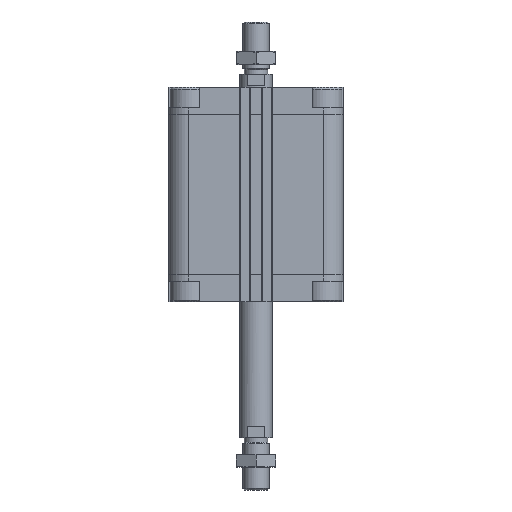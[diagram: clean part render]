
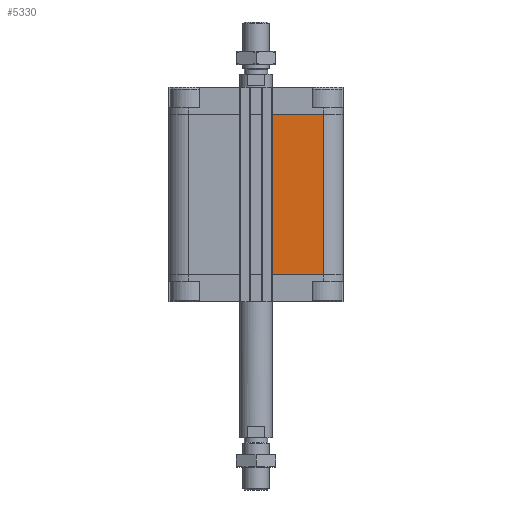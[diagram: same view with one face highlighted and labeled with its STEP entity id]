
A CAD part, front view. The second image highlights one B-rep face of the part: STEP entity #5330.
In plain terms, the highlighted planar face has unit normal (0, -1, 0).
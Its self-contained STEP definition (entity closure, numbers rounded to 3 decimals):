
#190 = ORIENTED_EDGE ( 'NONE', *, *, #8446, .T. ) ;
#3370 = VERTEX_POINT ( 'NONE', #13296 ) ;
#3803 = DIRECTION ( 'NONE',  ( 0., -1., 0. ) ) ;
#3814 = CARTESIAN_POINT ( 'NONE',  ( 9.95, -53.5, -114.5 ) ) ;
#3965 = VERTEX_POINT ( 'NONE', #19003 ) ;
#3974 = DIRECTION ( 'NONE',  ( 0., 0., 1. ) ) ;
#4520 = LINE ( 'NONE', #22509, #5371 ) ;
#5330 = ADVANCED_FACE ( 'NONE', ( #18183 ), #21015, .T. ) ;
#5349 = EDGE_LOOP ( 'NONE', ( #10634, #14108, #190, #12320 ) ) ;
#5371 = VECTOR ( 'NONE', #14975, 1000. ) ;
#5660 = CARTESIAN_POINT ( 'NONE',  ( 9.95, -53.5, -16.5 ) ) ;
#5791 = VECTOR ( 'NONE', #13825, 1000. ) ;
#8446 = EDGE_CURVE ( 'NONE', #10410, #16841, #17702, .T. ) ;
#8500 = EDGE_CURVE ( 'NONE', #10410, #3965, #19875, .T. ) ;
#9732 = AXIS2_PLACEMENT_3D ( 'NONE', #18082, #3803, #19277 ) ;
#10410 = VERTEX_POINT ( 'NONE', #3814 ) ;
#10634 = ORIENTED_EDGE ( 'NONE', *, *, #20191, .F. ) ;
#11054 = CARTESIAN_POINT ( 'NONE',  ( 9.95, -53.5, -114.5 ) ) ;
#11991 = DIRECTION ( 'NONE',  ( 1., 0., 0. ) ) ;
#12320 = ORIENTED_EDGE ( 'NONE', *, *, #14401, .T. ) ;
#13296 = CARTESIAN_POINT ( 'NONE',  ( 41., -53.5, -16.5 ) ) ;
#13825 = DIRECTION ( 'NONE',  ( 1., 0., 0. ) ) ;
#14108 = ORIENTED_EDGE ( 'NONE', *, *, #8500, .F. ) ;
#14401 = EDGE_CURVE ( 'NONE', #16841, #3370, #4520, .T. ) ;
#14975 = DIRECTION ( 'NONE',  ( 0., 0., 1. ) ) ;
#15320 = VECTOR ( 'NONE', #3974, 1000. ) ;
#16841 = VERTEX_POINT ( 'NONE', #17316 ) ;
#17316 = CARTESIAN_POINT ( 'NONE',  ( 41., -53.5, -114.5 ) ) ;
#17459 = CARTESIAN_POINT ( 'NONE',  ( 9.95, -53.5, -114.5 ) ) ;
#17702 = LINE ( 'NONE', #17459, #18290 ) ;
#18082 = CARTESIAN_POINT ( 'NONE',  ( 9.95, -53.5, -114.5 ) ) ;
#18183 = FACE_OUTER_BOUND ( 'NONE', #5349, .T. ) ;
#18290 = VECTOR ( 'NONE', #11991, 1000. ) ;
#19003 = CARTESIAN_POINT ( 'NONE',  ( 9.95, -53.5, -16.5 ) ) ;
#19277 = DIRECTION ( 'NONE',  ( -1., 0., 0. ) ) ;
#19875 = LINE ( 'NONE', #11054, #15320 ) ;
#20191 = EDGE_CURVE ( 'NONE', #3965, #3370, #21245, .T. ) ;
#21015 = PLANE ( 'NONE',  #9732 ) ;
#21245 = LINE ( 'NONE', #5660, #5791 ) ;
#22509 = CARTESIAN_POINT ( 'NONE',  ( 41., -53.5, -114.5 ) ) ;
